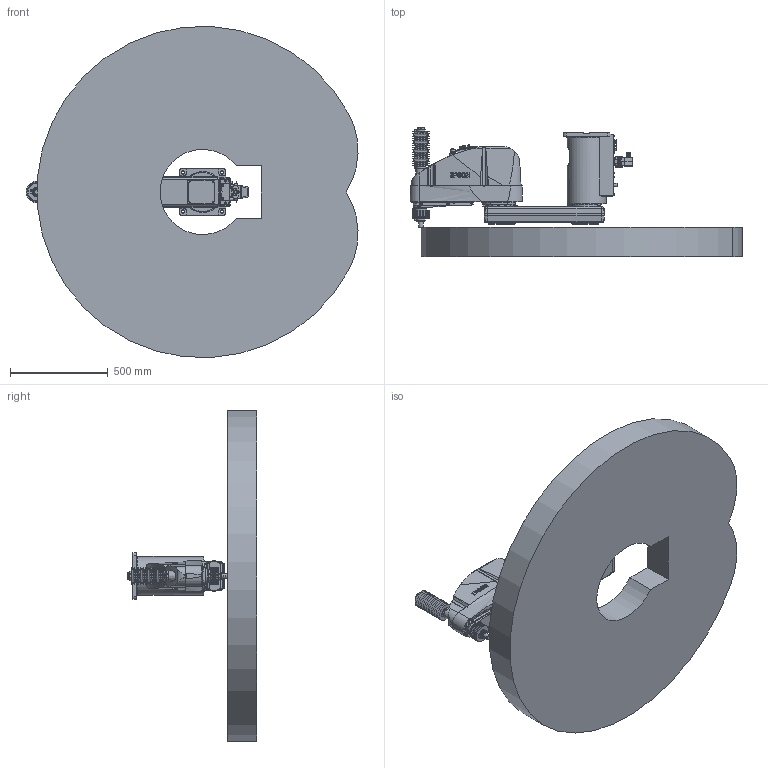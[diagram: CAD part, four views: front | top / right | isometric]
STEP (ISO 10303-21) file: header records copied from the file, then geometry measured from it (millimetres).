
FILE_DESCRIPTION( ( 'STEP AP214' ), '1' );
FILE_NAME( 'C:/Users/9607552/Desktop/GX10-B851CR_langle.stp', '2023-08-01T09:19:43', ( '' ), ( '' ), ' ', 'PARTsolutions', ' ' );
FILE_SCHEMA( ( 'AUTOMOTIVE_DESIGN { 1 0 10303 214 1 1 1 1 }' ) );
Length unit declared in the file: millimetre
Products named in the file (7): GX10-B851CRA-W; _Base cr; _Angle-B; _J1 Arm GX10-450 r/w; _J2 Arm GX10-c; _J3 Arm GX10-c (1); _GX10_20B-35_1
Assembly tree (6 placements, depth 2):
  GX10-B851CRA-W
    _Base cr
    _Angle-B
    _J1 Arm GX10-450 r/w
    _J2 Arm GX10-c
    _J3 Arm GX10-c (1)
    _GX10_20B-35_1
Bounding box: 1702.55 x 665 x 1697.41 mm (x, y, z)
Volume: 351192358.4 mm3; surface area: 6884418.9 mm2
Topology: 6 solids, 6 shells, 2478 faces, 6102 edges, 3970 vertices
Faces by surface type: plane 1318, cylinder 737, cone 318, torus 67, bspline 37, sphere 1
Full cylindrical faces by diameter (mm): 1.18 x55, 2.5 x2, 3 x32, 3.242 x10, 3.3 x9, 4 x2, 4.2 x2, 4.8 x4, 5.1 x4, 5.34 x4, 5.5 x12, 6 x3, 6.2 x2, 6.647 x2, 7 x27, 7.5 x1, 8 x4, 8.5 x2, 9 x4, 10 x32, 10.5 x4, 11 x14, 12 x7, 12.25 x1, 13 x2, 14 x8, 14.25 x1, 16 x7, 18 x2, 20.4 x1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
Entity records: 93672 total; most frequent: CARTESIAN_POINT 17516, DIRECTION 11675, ORIENTED_EDGE 10744, EDGE_CURVE 5372, AXIS2_PLACEMENT_3D 4405, VERTEX_POINT 3865, EDGE_LOOP 3468, LINE 2865
